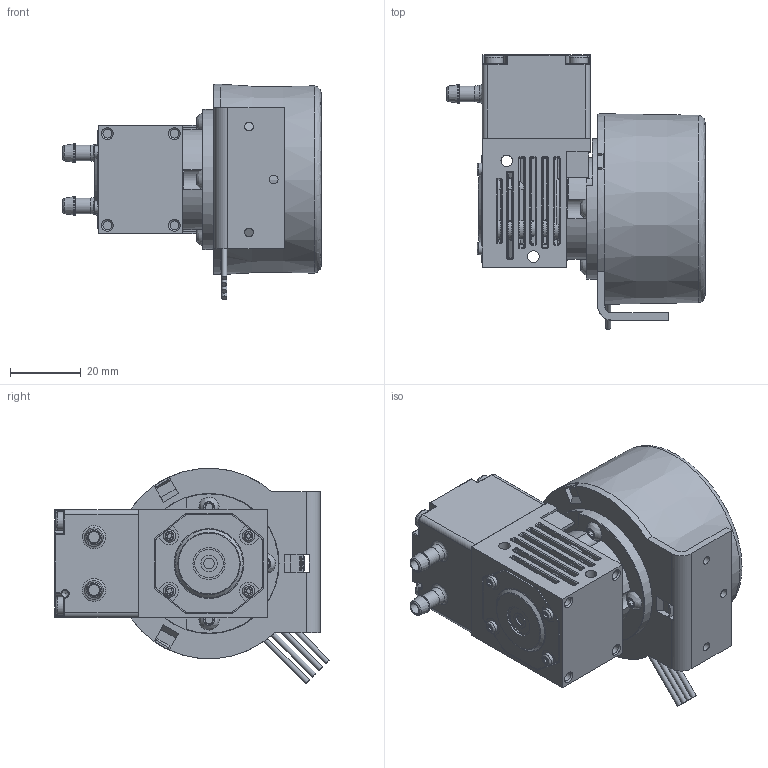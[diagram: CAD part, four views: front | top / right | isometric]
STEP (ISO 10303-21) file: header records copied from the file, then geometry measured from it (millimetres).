
FILE_DESCRIPTION (( 'STEP AP203' ), '1' );
FILE_NAME ('64100004-18-00.STEP', '2018-03-16T12:24:20', ( 'admin' ), ( 'Gardner Denver' ), 'SwSTEP 2.0', 'SolidWorks 2017', '' );
FILE_SCHEMA (( 'CONFIG_CONTROL_DESIGN' ));
Products named in the file (1): 64100004-18-00
Bounding box: 73.1 x 77.76 x 61.04 mm (x, y, z)
Volume: 126219.9 mm3; surface area: 23754.2 mm2
Topology: 1 solids, 4 shells, 1332 faces, 3487 edges, 2145 vertices
Faces by surface type: plane 696, bspline 302, cylinder 279, cone 55
Full cylindrical faces by diameter (mm): 1.5 x4, 1.95 x1, 2.46 x3, 2.5 x4, 2.995 x1, 3.2 x2, 3.3 x2, 3.5 x4, 4.4 x2, 4.6 x1, 5.2 x2, 5.3 x4, 8.1 x1, 9.1 x1, 29 x1, 39.7 x1
Entity records: 48018 total; most frequent: CARTESIAN_POINT 18012, ORIENTED_EDGE 6600, DIRECTION 5564, EDGE_CURVE 3300, LINE 2126, VECTOR 2126, VERTEX_POINT 2106, AXIS2_PLACEMENT_3D 1719
